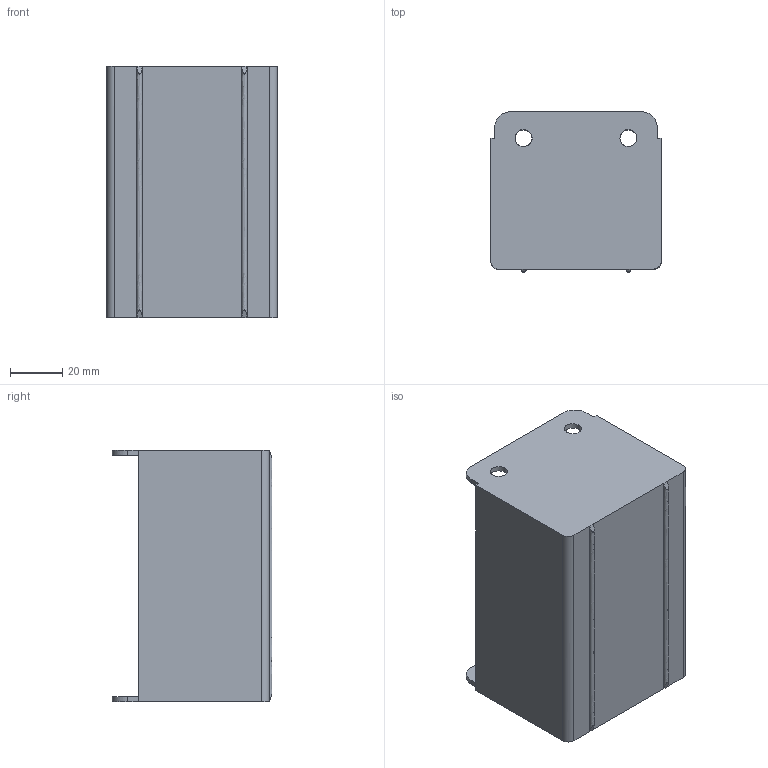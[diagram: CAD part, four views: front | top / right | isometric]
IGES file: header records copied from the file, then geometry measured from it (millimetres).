
Global section: file name: MGSS-FS-100; native system: unknown; preprocessor: unknown; author: unknown; organization: unknown; date: 20230601.151612; units: millimetre
Bounding box: 65 x 61 x 96 mm (x, y, z)
Volume: 48792.6 mm3; surface area: 61285.5 mm2
Topology: 2 solids, 2 shells, 52 faces, 132 edges, 84 vertices
Faces by surface type: bspline 52
